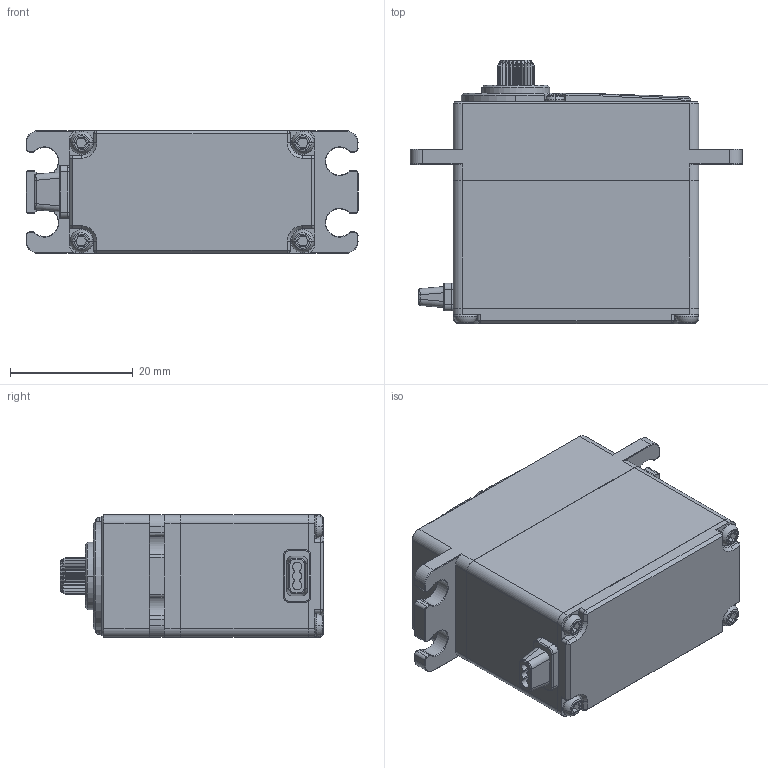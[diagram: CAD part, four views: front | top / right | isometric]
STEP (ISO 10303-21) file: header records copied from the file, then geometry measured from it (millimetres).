
FILE_DESCRIPTION((''),'2;1');
FILE_NAME('RS400BSW','2025-08-01T',('扂'),(''),'PRO/ENGINEER BY PARAMETRIC TECHNOLOGY CORPORATION, 2010280','PRO/ENGINEER BY PARAMETRIC TECHNOLOGY CORPORATION, 2010280','');
FILE_SCHEMA(('CONFIG_CONTROL_DESIGN'));
Length unit declared in the file: millimetre
Products named in the file (1): DDJ-STDCAR5H3-A80-AGF
Bounding box: 54 x 42.9 x 20 mm (x, y, z)
Volume: 30288 mm3; surface area: 6998 mm2
Topology: 1 solids, 1 shells, 667 faces, 1677 edges, 1019 vertices
Faces by surface type: plane 250, cylinder 244, cone 75, torus 68, bspline 18, sphere 12
Entity records: 23399 total; most frequent: CARTESIAN_POINT 7427, DIRECTION 3400, ORIENTED_EDGE 3326, EDGE_CURVE 1663, AXIS2_PLACEMENT_3D 1255, VERTEX_POINT 1019, VECTOR 890, LINE 890
